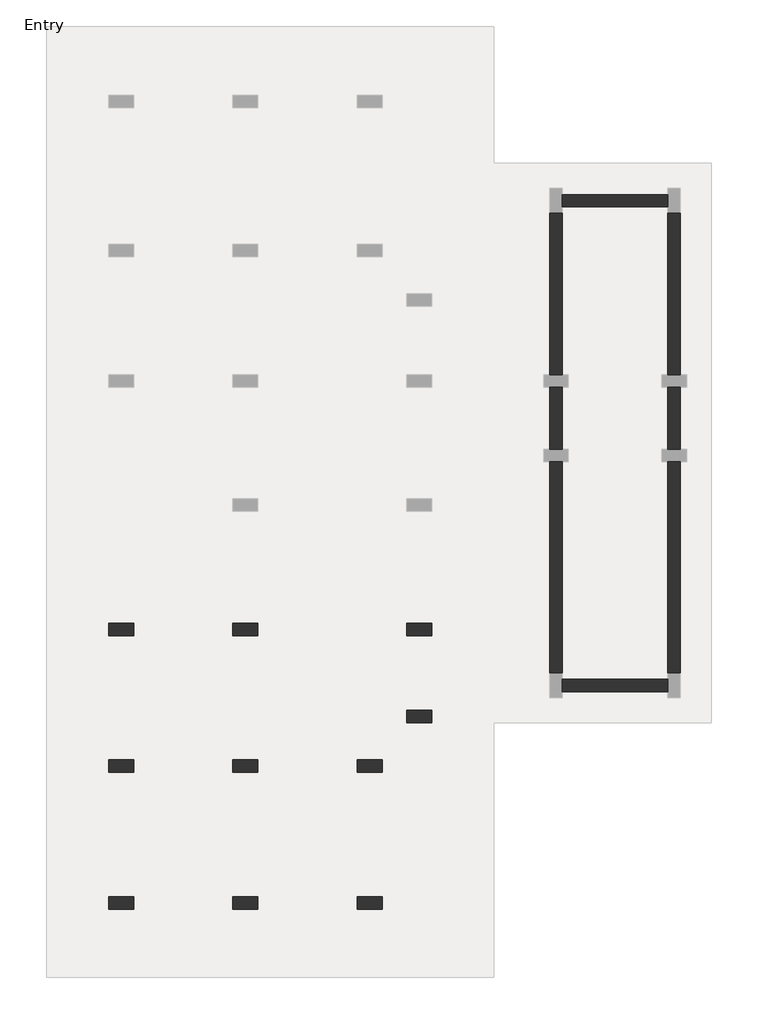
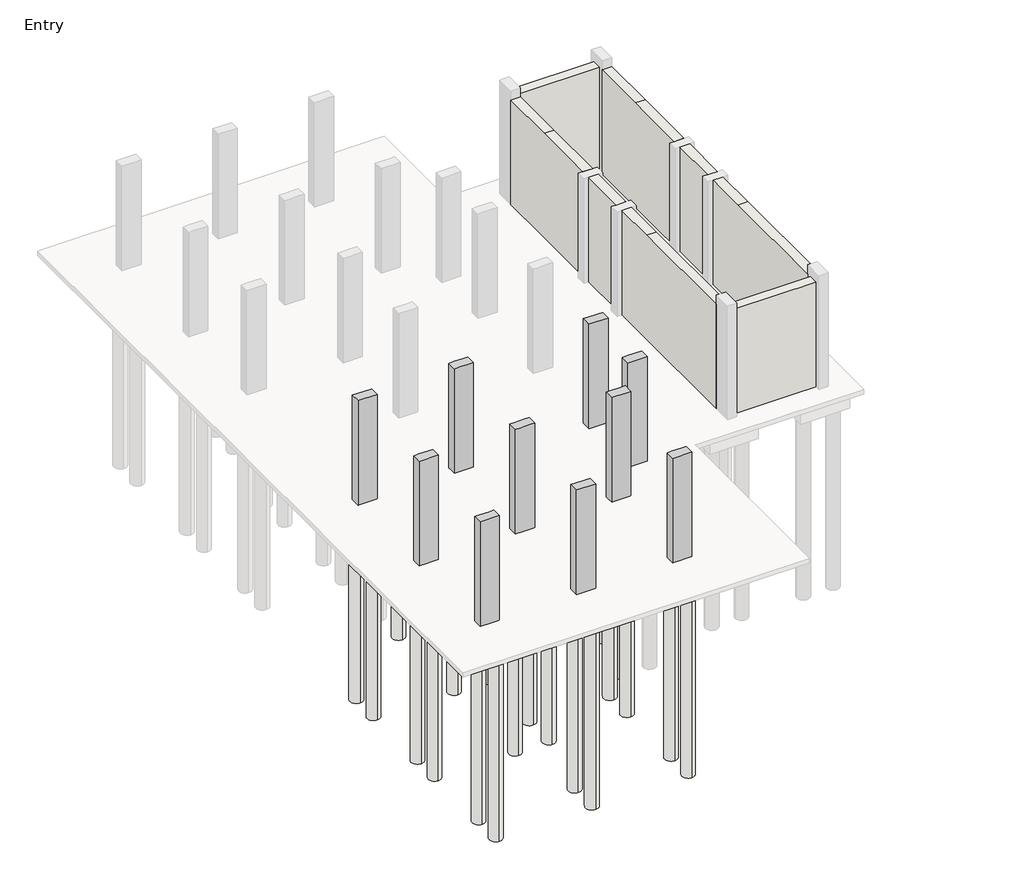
# One storey, part 1 of 3: 35 slabs, 10 columns, 8 walls.
"""IFC4 building model written with IfcOpenShell, lengths in millimetres."""

from ifc_helpers import new_model, si_unit, point, frame, frame_2d, origin, origin_with_axes, place, context, project, spatial, polyline, circle_curve, trimmed, segment, composite_curve, outline, extrude, faceted_brep, element, save

model = new_model("IFC4")

# Units and contexts
model_context = context("Model", 3, world=origin())
ifc_project = project(units=[si_unit("LENGTHUNIT", "METRE", prefix="MILLI")], contexts=[model_context])

# Site, building, storey
site = spatial("IfcSite", under=ifc_project)
building = spatial("IfcBuilding", under=site)
storey = spatial("IfcBuildingStorey", under=building, Name="Entry", Elevation=0.0)

# Columns
placement = place(None, origin())
element("IfcColumn", 1, ObjectType="Concrete-Rectangular-Column : 12 x 24", at=placement, inside=storey, context=model_context, shape_type="Brep", body=[
    faceted_brep([(-15967.1663981, -2679.8512152, 0.0), (-15357.5663981, -2679.8512152, 0.0), (-15357.5663981, -2984.6512152, 0.0), (-15967.1663981, -2984.6512152, 0.0), (-15967.1663981, -2679.8512152, 3505.2), (-15357.5663981, -2679.8512152, 3505.2), (-15357.5663981, -2679.8512152, 2895.6), (-15357.5663981, -2984.6512152, 3505.2), (-15357.5663981, -2984.6512152, 2895.6), (-15509.9663981, -2984.6512152, 3505.2), (-15814.7663981, -2984.6512152, 3505.2), (-15967.1663981, -2984.6512152, 3505.2)], [[[0, 1, 2, 3]], [[4, 5, 6, 1, 0]], [[5, 7, 8, 2, 1, 6]], [[7, 9, 10, 11, 3, 2, 8]], [[11, 4, 0, 3]], [[4, 11, 10, 9, 7, 5]]]),
])
element("IfcColumn", 2, ObjectType="Concrete-Rectangular-Column : 12 x 24", at=placement, inside=storey, context=model_context, shape_type="Brep", body=[
    faceted_brep([(-15967.1663981, -6032.6512152, 0.0), (-15357.5663981, -6032.6512152, 0.0), (-15357.5663981, -6337.4512152, 0.0), (-15967.1663981, -6337.4512152, 0.0), (-15967.1663981, -6032.6512152, 3505.2), (-15814.7663981, -6032.6512152, 3505.2), (-15509.9663981, -6032.6512152, 3505.2), (-15357.5663981, -6032.6512152, 3505.2), (-15357.5663981, -6032.6512152, 2895.6), (-15357.5663981, -6337.4512152, 3505.2), (-15357.5663981, -6337.4512152, 2895.6), (-15509.9663981, -6337.4512152, 3505.2), (-15814.7663981, -6337.4512152, 3505.2), (-15967.1663981, -6337.4512152, 3505.2)], [[[0, 1, 2, 3]], [[4, 5, 6, 7, 8, 1, 0]], [[7, 9, 10, 2, 1, 8]], [[9, 11, 12, 13, 3, 2, 10]], [[13, 4, 0, 3]], [[4, 13, 12, 11, 9, 7, 6, 5]]]),
])
element("IfcColumn", 3, ObjectType="Concrete-Rectangular-Column : 12 x 24", at=placement, inside=storey, context=model_context, shape_type="Brep", body=[
    faceted_brep([(-15967.1663981, -9385.4512152, 0.0), (-15357.5663981, -9385.4512152, 0.0), (-15357.5663981, -9690.2512152, 0.0), (-15967.1663981, -9690.2512152, 0.0), (-15967.1663981, -9385.4512152, 3505.2), (-15814.7663981, -9385.4512152, 3505.2), (-15509.9663981, -9385.4512152, 3505.2), (-15357.5663981, -9385.4512152, 3505.2), (-15357.5663981, -9385.4512152, 2895.6), (-15357.5663981, -9690.2512152, 3505.2), (-15357.5663981, -9690.2512152, 2895.6), (-15967.1663981, -9690.2512152, 3505.2)], [[[0, 1, 2, 3]], [[4, 5, 6, 7, 8, 1, 0]], [[7, 9, 10, 2, 1, 8]], [[9, 11, 3, 2, 10]], [[11, 4, 0, 3]], [[4, 11, 9, 7, 6, 5]]]),
])
element("IfcColumn", 4, ObjectType="Concrete-Rectangular-Column : 12 x 24", at=placement, inside=storey, context=model_context, shape_type="Brep", body=[
    faceted_brep([(-12919.1663981, -9385.4512152, 0.0), (-12309.5663981, -9385.4512152, 0.0), (-12309.5663981, -9690.2512152, 0.0), (-12919.1663981, -9690.2512152, 0.0), (-12919.1663981, -9385.4512152, 3505.2), (-12766.7663981, -9385.4512152, 3505.2), (-12461.9663981, -9385.4512152, 3505.2), (-12309.5663981, -9385.4512152, 3505.2), (-12309.5663981, -9385.4512152, 2895.6), (-12919.1663981, -9385.4512152, 2895.6), (-12309.5663981, -9690.2512152, 3505.2), (-12309.5663981, -9690.2512152, 2895.6), (-12919.1663981, -9690.2512152, 3505.2), (-12919.1663981, -9690.2512152, 2895.6)], [[[0, 1, 2, 3]], [[4, 5, 6, 7, 8, 1, 0, 9]], [[7, 10, 11, 2, 1, 8]], [[10, 12, 13, 3, 2, 11]], [[12, 4, 9, 0, 3, 13]], [[4, 12, 10, 7, 6, 5]]]),
])
element("IfcColumn", 5, ObjectType="Concrete-Rectangular-Column : 12 x 24", at=placement, inside=storey, context=model_context, shape_type="Brep", body=[
    faceted_brep([(-12919.1663981, -6032.6512152, 0.0), (-12309.5663981, -6032.6512152, 0.0), (-12309.5663981, -6337.4512152, 0.0), (-12919.1663981, -6337.4512152, 0.0), (-12919.1663981, -6032.6512152, 3505.2), (-12766.7663981, -6032.6512152, 3505.2), (-12461.9663981, -6032.6512152, 3505.2), (-12309.5663981, -6032.6512152, 3505.2), (-12309.5663981, -6032.6512152, 2895.6), (-12919.1663981, -6032.6512152, 2895.6), (-12309.5663981, -6337.4512152, 3505.2), (-12309.5663981, -6337.4512152, 2895.6), (-12461.9663981, -6337.4512152, 3505.2), (-12766.7663981, -6337.4512152, 3505.2), (-12919.1663981, -6337.4512152, 3505.2), (-12919.1663981, -6337.4512152, 2895.6)], [[[0, 1, 2, 3]], [[4, 5, 6, 7, 8, 1, 0, 9]], [[7, 10, 11, 2, 1, 8]], [[10, 12, 13, 14, 15, 3, 2, 11]], [[14, 4, 9, 0, 3, 15]], [[4, 14, 13, 12, 10, 7, 6, 5]]]),
])
element("IfcColumn", 6, ObjectType="Concrete-Rectangular-Column : 12 x 24", at=placement, inside=storey, context=model_context, shape_type="Brep", body=[
    faceted_brep([(-12919.1663981, -2679.8512152, 0.0), (-12309.5663981, -2679.8512152, 0.0), (-12309.5663981, -2984.6512152, 0.0), (-12919.1663981, -2984.6512152, 0.0), (-12919.1663981, -2679.8512152, 3505.2), (-12766.7663981, -2679.8512152, 3505.2), (-12461.9663981, -2679.8512152, 3505.2), (-12309.5663981, -2679.8512152, 3505.2), (-12309.5663981, -2679.8512152, 2895.6), (-12919.1663981, -2679.8512152, 2895.6), (-12309.5663981, -2984.6512152, 3505.2), (-12309.5663981, -2984.6512152, 2895.6), (-12461.9663981, -2984.6512152, 3505.2), (-12766.7663981, -2984.6512152, 3505.2), (-12919.1663981, -2984.6512152, 3505.2), (-12919.1663981, -2984.6512152, 2895.6)], [[[0, 1, 2, 3]], [[4, 5, 6, 7, 8, 1, 0, 9]], [[7, 10, 11, 2, 1, 8]], [[10, 12, 13, 14, 15, 3, 2, 11]], [[14, 4, 9, 0, 3, 15]], [[4, 14, 13, 12, 10, 7, 6, 5]]]),
])
element("IfcColumn", 7, ObjectType="Concrete-Rectangular-Column : 12 x 24", at=placement, inside=storey, context=model_context, shape_type="Brep", body=[
    faceted_brep([(-8651.9663981, -2679.8512152, 0.0), (-8042.3663981, -2679.8512152, 0.0), (-8042.3663981, -2984.6512152, 0.0), (-8651.9663981, -2984.6512152, 0.0), (-8651.9663981, -2679.8512152, 3505.2), (-8499.5663981, -2679.8512152, 3505.2), (-8194.7663981, -2679.8512152, 3505.2), (-8042.3663981, -2679.8512152, 3505.2), (-8651.9663981, -2679.8512152, 2895.6), (-8042.3663981, -2984.6512152, 3505.2), (-8194.7663981, -2984.6512152, 3505.2), (-8499.5663981, -2984.6512152, 3505.2), (-8651.9663981, -2984.6512152, 3505.2), (-8651.9663981, -2984.6512152, 2895.6)], [[[0, 1, 2, 3]], [[4, 5, 6, 7, 1, 0, 8]], [[7, 9, 2, 1]], [[9, 10, 11, 12, 13, 3, 2]], [[12, 4, 8, 0, 3, 13]], [[4, 12, 11, 10, 9, 7, 6, 5]]]),
])
element("IfcColumn", 8, ObjectType="Concrete-Rectangular-Column : 12 x 24", at=placement, inside=storey, context=model_context, shape_type="Brep", body=[
    faceted_brep([(-8651.9663981, -4813.4512152, 0.0), (-8042.3663981, -4813.4512152, 0.0), (-8042.3663981, -5118.2512152, 0.0), (-8651.9663981, -5118.2512152, 0.0), (-8651.9663981, -4813.4512152, 3505.2), (-8499.5663981, -4813.4512152, 3505.2), (-8194.7663981, -4813.4512152, 3505.2), (-8042.3663981, -4813.4512152, 3505.2), (-8651.9663981, -4813.4512152, 2895.6), (-8042.3663981, -5118.2512152, 3505.2), (-8651.9663981, -5118.2512152, 3505.2), (-8651.9663981, -5118.2512152, 2895.6)], [[[0, 1, 2, 3]], [[4, 5, 6, 7, 1, 0, 8]], [[7, 9, 2, 1]], [[9, 10, 11, 3, 2]], [[10, 4, 8, 0, 3, 11]], [[4, 10, 9, 7, 6, 5]]]),
])
element("IfcColumn", 9, ObjectType="Concrete-Rectangular-Column : 12 x 24", at=placement, inside=storey, context=model_context, shape_type="Brep", body=[
    faceted_brep([(-9261.5663981, -6337.4512152, 0.0), (-9871.1663981, -6337.4512152, 0.0), (-9871.1663981, -6032.6512152, 0.0), (-9261.5663981, -6032.6512152, 0.0), (-9261.5663981, -6337.4512152, 3505.2), (-9413.9663981, -6337.4512152, 3505.2), (-9718.7663981, -6337.4512152, 3505.2), (-9871.1663981, -6337.4512152, 3505.2), (-9871.1663981, -6337.4512152, 2895.6), (-9871.1663981, -6032.6512152, 3505.2), (-9871.1663981, -6032.6512152, 2895.6), (-9718.7663981, -6032.6512152, 3505.2), (-9413.9663981, -6032.6512152, 3505.2), (-9261.5663981, -6032.6512152, 3505.2)], [[[0, 1, 2, 3]], [[4, 5, 6, 7, 8, 1, 0]], [[7, 9, 10, 2, 1, 8]], [[9, 11, 12, 13, 3, 2, 10]], [[13, 4, 0, 3]], [[4, 13, 12, 11, 9, 7, 6, 5]]]),
])
element("IfcColumn", 10, ObjectType="Concrete-Rectangular-Column : 12 x 24", at=placement, inside=storey, context=model_context, shape_type="Brep", body=[
    faceted_brep([(-9261.5663981, -9690.2512152, 0.0), (-9871.1663981, -9690.2512152, 0.0), (-9871.1663981, -9385.4512152, 0.0), (-9261.5663981, -9385.4512152, 0.0), (-9261.5663981, -9690.2512152, 3505.2), (-9871.1663981, -9690.2512152, 3505.2), (-9871.1663981, -9690.2512152, 2895.6), (-9871.1663981, -9385.4512152, 3505.2), (-9871.1663981, -9385.4512152, 2895.6), (-9718.7663981, -9385.4512152, 3505.2), (-9413.9663981, -9385.4512152, 3505.2), (-9261.5663981, -9385.4512152, 3505.2)], [[[0, 1, 2, 3]], [[4, 5, 6, 1, 0]], [[5, 7, 8, 2, 1, 6]], [[7, 9, 10, 11, 3, 2, 8]], [[11, 4, 0, 3]], [[4, 11, 10, 9, 7, 5]]]),
])

# Slabs
element("IfcSlab", 11, ObjectType="Pile Cap-2 Pile : 31\"x61\"x35\"", at=placement, inside=storey, context=model_context, shape_type="SweptSolid", body=[
    extrude(outline(polyline([(-16068.7663981, -2057.5512152), (-15255.9663981, -2057.5512152), (-15255.9663981, -3606.9512152), (-16068.7663981, -3606.9512152), (-16068.7663981, -2057.5512152)])), frame((0.0, 0.0, -889.0), z_axis=(0.0, 0.0, 1.0), x_axis=(1.0, 0.0, 0.0)), (0.0, 0.0, 1.0), 736.6),
])
element("IfcSlab", 12, ObjectType="Pile Cap-2 Pile : 31\"x61\"x35\"", at=placement, inside=storey, context=model_context, shape_type="SweptSolid", body=[
    extrude(outline(polyline([(-16068.7663981, -5410.3512152), (-15255.9663981, -5410.3512152), (-15255.9663981, -6959.7512152), (-16068.7663981, -6959.7512152), (-16068.7663981, -5410.3512152)])), frame((0.0, 0.0, -889.0), z_axis=(0.0, 0.0, 1.0), x_axis=(1.0, 0.0, 0.0)), (0.0, 0.0, 1.0), 736.6),
])
element("IfcSlab", 13, ObjectType="Pile Cap-2 Pile : 31\"x61\"x35\"", at=placement, inside=storey, context=model_context, shape_type="SweptSolid", body=[
    extrude(outline(polyline([(-16068.7663981, -8763.1512152), (-15255.9663981, -8763.1512152), (-15255.9663981, -10312.5512152), (-16068.7663981, -10312.5512152), (-16068.7663981, -8763.1512152)])), frame((0.0, 0.0, -889.0), z_axis=(0.0, 0.0, 1.0), x_axis=(1.0, 0.0, 0.0)), (0.0, 0.0, 1.0), 736.6),
])
element("IfcSlab", 14, ObjectType="Pile Cap-2 Pile : 31\"x61\"x35\"", at=placement, inside=storey, context=model_context, shape_type="SweptSolid", body=[
    extrude(outline(polyline([(-13020.7663981, -8763.1512152), (-12207.9663981, -8763.1512152), (-12207.9663981, -10312.5512152), (-13020.7663981, -10312.5512152), (-13020.7663981, -8763.1512152)])), frame((0.0, 0.0, -889.0), z_axis=(0.0, 0.0, 1.0), x_axis=(1.0, 0.0, 0.0)), (0.0, 0.0, 1.0), 736.6),
])
element("IfcSlab", 15, ObjectType="Pile Cap-2 Pile : 31\"x61\"x35\"", at=placement, inside=storey, context=model_context, shape_type="SweptSolid", body=[
    extrude(outline(polyline([(-9159.9663981, -6959.7512152), (-9972.7663981, -6959.7512152), (-9972.7663981, -5410.3512152), (-9159.9663981, -5410.3512152), (-9159.9663981, -6959.7512152)])), frame((0.0, 0.0, -889.0), z_axis=(0.0, 0.0, 1.0), x_axis=(1.0, 0.0, 0.0)), (0.0, 0.0, 1.0), 736.6),
])
element("IfcSlab", 16, ObjectType="Pile Cap-2 Pile : 31\"x61\"x35\"", at=placement, inside=storey, context=model_context, shape_type="SweptSolid", body=[
    extrude(outline(polyline([(-9159.9663981, -10312.5512152), (-9972.7663981, -10312.5512152), (-9972.7663981, -8763.1512152), (-9159.9663981, -8763.1512152), (-9159.9663981, -10312.5512152)])), frame((0.0, 0.0, -889.0), z_axis=(0.0, 0.0, 1.0), x_axis=(1.0, 0.0, 0.0)), (0.0, 0.0, 1.0), 736.6),
])
element("IfcSlab", 17, ObjectType="Pile Cap-2 Pile : 31\"x61\"x35\"", at=placement, inside=storey, context=model_context, shape_type="SweptSolid", body=[
    extrude(outline(polyline([(-8753.5663981, -2057.5512152), (-7940.7663981, -2057.5512152), (-7940.7663981, -3606.9512152), (-8753.5663981, -3606.9512152), (-8753.5663981, -2057.5512152)])), frame((0.0, 0.0, -889.0), z_axis=(0.0, 0.0, 1.0), x_axis=(1.0, 0.0, 0.0)), (0.0, 0.0, 1.0), 736.6),
])
element("IfcSlab", 18, ObjectType="Pile Cap-2 Pile : 31\"x61\"x35\"", at=placement, inside=storey, context=model_context, shape_type="SweptSolid", body=[
    extrude(outline(polyline([(-7572.4663981, -4559.4512152), (-7572.4663981, -5372.2512152), (-9121.8663981, -5372.2512152), (-9121.8663981, -4559.4512152), (-7572.4663981, -4559.4512152)])), frame((0.0, 0.0, -889.0), z_axis=(0.0, 0.0, 1.0), x_axis=(1.0, 0.0, 0.0)), (0.0, 0.0, 1.0), 736.6),
])
element("IfcSlab", 19, ObjectType="Pile Cap-4 Pile : 72\"x72\"x35\"", at=placement, inside=storey, context=model_context, shape_type="SweptSolid", body=[
    extrude(outline(polyline([(-13528.7663981, -1917.8512152), (-11699.9663981, -1917.8512152), (-11699.9663981, -3746.6512152), (-13528.7663981, -3746.6512152), (-13528.7663981, -1917.8512152)])), frame((0.0, 0.0, -889.0), z_axis=(0.0, 0.0, 1.0), x_axis=(1.0, 0.0, 0.0)), (0.0, 0.0, 1.0), 736.6),
])
element("IfcSlab", 20, ObjectType="Pile Cap-4 Pile : 72\"x72\"x35\"", at=placement, inside=storey, context=model_context, shape_type="SweptSolid", body=[
    extrude(outline(polyline([(-13528.7663981, -5270.6512152), (-11699.9663981, -5270.6512152), (-11699.9663981, -7099.4512152), (-13528.7663981, -7099.4512152), (-13528.7663981, -5270.6512152)])), frame((0.0, 0.0, -889.0), z_axis=(0.0, 0.0, 1.0), x_axis=(1.0, 0.0, 0.0)), (0.0, 0.0, 1.0), 736.6),
])
element("IfcSlab", 21, ObjectType="Pile-Steel Pipe : 16\" Diameter", at=placement, inside=storey, context=model_context, shape_type="SweptSolid", body=[
    extrude(outline(composite_curve([segment(trimmed(circle_curve(frame_2d((-13147.7663981, -317.6512152)), 203.2), [point((-13147.7663981, -520.8512152))], [point((-13147.7663981, -114.4512152))], False, "CARTESIAN"), True, "CONTINUOUS"), segment(trimmed(circle_curve(frame_2d((-13147.7663981, -317.6512152)), 203.2), [point((-13147.7663981, -114.4512152))], [point((-13147.7663981, -520.8512152))], False, "CARTESIAN"), True, "CONTINUOUS")], self_intersect=False)), frame((0.0, 0.0, -6985.0), z_axis=(0.0, 0.0, 1.0), x_axis=(1.0, 0.0, 0.0)), (0.0, 0.0, 1.0), 6096.0),
])
element("IfcSlab", 22, ObjectType="Pile-Steel Pipe : 16\" Diameter", at=placement, inside=storey, context=model_context, shape_type="SweptSolid", body=[
    extrude(outline(composite_curve([segment(trimmed(circle_curve(frame_2d((-12080.9663981, -317.6512152)), 203.2), [point((-12080.9663981, -520.8512152))], [point((-12080.9663981, -114.4512152))], False, "CARTESIAN"), True, "CONTINUOUS"), segment(trimmed(circle_curve(frame_2d((-12080.9663981, -317.6512152)), 203.2), [point((-12080.9663981, -114.4512152))], [point((-12080.9663981, -520.8512152))], False, "CARTESIAN"), True, "CONTINUOUS")], self_intersect=False)), frame((0.0, 0.0, -6985.0), z_axis=(0.0, 0.0, 1.0), x_axis=(1.0, 0.0, 0.0)), (0.0, 0.0, 1.0), 6096.0),
])
element("IfcSlab", 23, ObjectType="Pile-Steel Pipe : 16\" Diameter", at=placement, inside=storey, context=model_context, shape_type="SweptSolid", body=[
    extrude(outline(composite_curve([segment(trimmed(circle_curve(frame_2d((-13147.7663981, -3365.6512152)), 203.2), [point((-13147.7663981, -3568.8512152))], [point((-13147.7663981, -3162.4512152))], False, "CARTESIAN"), True, "CONTINUOUS"), segment(trimmed(circle_curve(frame_2d((-13147.7663981, -3365.6512152)), 203.2), [point((-13147.7663981, -3162.4512152))], [point((-13147.7663981, -3568.8512152))], False, "CARTESIAN"), True, "CONTINUOUS")], self_intersect=False)), frame((0.0, 0.0, -6985.0), z_axis=(0.0, 0.0, 1.0), x_axis=(1.0, 0.0, 0.0)), (0.0, 0.0, 1.0), 6096.0),
])
element("IfcSlab", 24, ObjectType="Pile-Steel Pipe : 16\" Diameter", at=placement, inside=storey, context=model_context, shape_type="SweptSolid", body=[
    extrude(outline(composite_curve([segment(trimmed(circle_curve(frame_2d((-12080.9663981, -3365.6512152)), 203.2), [point((-12080.9663981, -3568.8512152))], [point((-12080.9663981, -3162.4512152))], False, "CARTESIAN"), True, "CONTINUOUS"), segment(trimmed(circle_curve(frame_2d((-12080.9663981, -3365.6512152)), 203.2), [point((-12080.9663981, -3162.4512152))], [point((-12080.9663981, -3568.8512152))], False, "CARTESIAN"), True, "CONTINUOUS")], self_intersect=False)), frame((0.0, 0.0, -6985.0), z_axis=(0.0, 0.0, 1.0), x_axis=(1.0, 0.0, 0.0)), (0.0, 0.0, 1.0), 6096.0),
])
element("IfcSlab", 25, ObjectType="Pile-Steel Pipe : 16\" Diameter", at=placement, inside=storey, context=model_context, shape_type="SweptSolid", body=[
    extrude(outline(composite_curve([segment(trimmed(circle_curve(frame_2d((-12080.9663981, -2298.8512152)), 203.2), [point((-12080.9663981, -2502.0512152))], [point((-12080.9663981, -2095.6512152))], False, "CARTESIAN"), True, "CONTINUOUS"), segment(trimmed(circle_curve(frame_2d((-12080.9663981, -2298.8512152)), 203.2), [point((-12080.9663981, -2095.6512152))], [point((-12080.9663981, -2502.0512152))], False, "CARTESIAN"), True, "CONTINUOUS")], self_intersect=False)), frame((0.0, 0.0, -6985.0), z_axis=(0.0, 0.0, 1.0), x_axis=(1.0, 0.0, 0.0)), (0.0, 0.0, 1.0), 6096.0),
])
element("IfcSlab", 26, ObjectType="Pile-Steel Pipe : 16\" Diameter", at=placement, inside=storey, context=model_context, shape_type="SweptSolid", body=[
    extrude(outline(composite_curve([segment(trimmed(circle_curve(frame_2d((-13147.7663981, -2298.8512152)), 203.2), [point((-13147.7663981, -2502.0512152))], [point((-13147.7663981, -2095.6512152))], False, "CARTESIAN"), True, "CONTINUOUS"), segment(trimmed(circle_curve(frame_2d((-13147.7663981, -2298.8512152)), 203.2), [point((-13147.7663981, -2095.6512152))], [point((-13147.7663981, -2502.0512152))], False, "CARTESIAN"), True, "CONTINUOUS")], self_intersect=False)), frame((0.0, 0.0, -6985.0), z_axis=(0.0, 0.0, 1.0), x_axis=(1.0, 0.0, 0.0)), (0.0, 0.0, 1.0), 6096.0),
])
element("IfcSlab", 27, ObjectType="Pile-Steel Pipe : 16\" Diameter", at=placement, inside=storey, context=model_context, shape_type="SweptSolid", body=[
    extrude(outline(composite_curve([segment(trimmed(circle_curve(frame_2d((-13147.7663981, -6718.4512152)), 203.2), [point((-13147.7663981, -6921.6512152))], [point((-13147.7663981, -6515.2512152))], False, "CARTESIAN"), True, "CONTINUOUS"), segment(trimmed(circle_curve(frame_2d((-13147.7663981, -6718.4512152)), 203.2), [point((-13147.7663981, -6515.2512152))], [point((-13147.7663981, -6921.6512152))], False, "CARTESIAN"), True, "CONTINUOUS")], self_intersect=False)), frame((0.0, 0.0, -6985.0), z_axis=(0.0, 0.0, 1.0), x_axis=(1.0, 0.0, 0.0)), (0.0, 0.0, 1.0), 6096.0),
])
element("IfcSlab", 28, ObjectType="Pile-Steel Pipe : 16\" Diameter", at=placement, inside=storey, context=model_context, shape_type="SweptSolid", body=[
    extrude(outline(composite_curve([segment(trimmed(circle_curve(frame_2d((-12080.9663981, -6718.4512152)), 203.2), [point((-12080.9663981, -6921.6512152))], [point((-12080.9663981, -6515.2512152))], False, "CARTESIAN"), True, "CONTINUOUS"), segment(trimmed(circle_curve(frame_2d((-12080.9663981, -6718.4512152)), 203.2), [point((-12080.9663981, -6515.2512152))], [point((-12080.9663981, -6921.6512152))], False, "CARTESIAN"), True, "CONTINUOUS")], self_intersect=False)), frame((0.0, 0.0, -6985.0), z_axis=(0.0, 0.0, 1.0), x_axis=(1.0, 0.0, 0.0)), (0.0, 0.0, 1.0), 6096.0),
])
element("IfcSlab", 29, ObjectType="Pile-Steel Pipe : 16\" Diameter", at=placement, inside=storey, context=model_context, shape_type="SweptSolid", body=[
    extrude(outline(composite_curve([segment(trimmed(circle_curve(frame_2d((-12080.9663981, -5651.6512152)), 203.2), [point((-12080.9663981, -5854.8512152))], [point((-12080.9663981, -5448.4512152))], False, "CARTESIAN"), True, "CONTINUOUS"), segment(trimmed(circle_curve(frame_2d((-12080.9663981, -5651.6512152)), 203.2), [point((-12080.9663981, -5448.4512152))], [point((-12080.9663981, -5854.8512152))], False, "CARTESIAN"), True, "CONTINUOUS")], self_intersect=False)), frame((0.0, 0.0, -6985.0), z_axis=(0.0, 0.0, 1.0), x_axis=(1.0, 0.0, 0.0)), (0.0, 0.0, 1.0), 6096.0),
])
element("IfcSlab", 30, ObjectType="Pile-Steel Pipe : 16\" Diameter", at=placement, inside=storey, context=model_context, shape_type="SweptSolid", body=[
    extrude(outline(composite_curve([segment(trimmed(circle_curve(frame_2d((-13147.7663981, -5651.6512152)), 203.2), [point((-13147.7663981, -5854.8512152))], [point((-13147.7663981, -5448.4512152))], False, "CARTESIAN"), True, "CONTINUOUS"), segment(trimmed(circle_curve(frame_2d((-13147.7663981, -5651.6512152)), 203.2), [point((-13147.7663981, -5448.4512152))], [point((-13147.7663981, -5854.8512152))], False, "CARTESIAN"), True, "CONTINUOUS")], self_intersect=False)), frame((0.0, 0.0, -6985.0), z_axis=(0.0, 0.0, 1.0), x_axis=(1.0, 0.0, 0.0)), (0.0, 0.0, 1.0), 6096.0),
])
element("IfcSlab", 31, ObjectType="Pile-Steel Pipe : 16\" Diameter", at=placement, inside=storey, context=model_context, shape_type="SweptSolid", body=[
    extrude(outline(composite_curve([segment(trimmed(circle_curve(frame_2d((-15662.3663981, -3302.1512152)), 203.2), [point((-15662.3663981, -3505.3512152))], [point((-15662.3663981, -3098.9512152))], False, "CARTESIAN"), True, "CONTINUOUS"), segment(trimmed(circle_curve(frame_2d((-15662.3663981, -3302.1512152)), 203.2), [point((-15662.3663981, -3098.9512152))], [point((-15662.3663981, -3505.3512152))], False, "CARTESIAN"), True, "CONTINUOUS")], self_intersect=False)), frame((0.0, 0.0, -6985.0), z_axis=(0.0, 0.0, 1.0), x_axis=(1.0, 0.0, 0.0)), (0.0, 0.0, 1.0), 6096.0),
])
element("IfcSlab", 32, ObjectType="Pile-Steel Pipe : 16\" Diameter", at=placement, inside=storey, context=model_context, shape_type="SweptSolid", body=[
    extrude(outline(composite_curve([segment(trimmed(circle_curve(frame_2d((-15662.3663981, -2362.3512152)), 203.2), [point((-15662.3663981, -2565.5512152))], [point((-15662.3663981, -2159.1512152))], False, "CARTESIAN"), True, "CONTINUOUS"), segment(trimmed(circle_curve(frame_2d((-15662.3663981, -2362.3512152)), 203.2), [point((-15662.3663981, -2159.1512152))], [point((-15662.3663981, -2565.5512152))], False, "CARTESIAN"), True, "CONTINUOUS")], self_intersect=False)), frame((0.0, 0.0, -6985.0), z_axis=(0.0, 0.0, 1.0), x_axis=(1.0, 0.0, 0.0)), (0.0, 0.0, 1.0), 6096.0),
])
element("IfcSlab", 33, ObjectType="Pile-Steel Pipe : 16\" Diameter", at=placement, inside=storey, context=model_context, shape_type="SweptSolid", body=[
    extrude(outline(composite_curve([segment(trimmed(circle_curve(frame_2d((-15662.3663981, -6654.9512152)), 203.2), [point((-15662.3663981, -6858.1512152))], [point((-15662.3663981, -6451.7512152))], False, "CARTESIAN"), True, "CONTINUOUS"), segment(trimmed(circle_curve(frame_2d((-15662.3663981, -6654.9512152)), 203.2), [point((-15662.3663981, -6451.7512152))], [point((-15662.3663981, -6858.1512152))], False, "CARTESIAN"), True, "CONTINUOUS")], self_intersect=False)), frame((0.0, 0.0, -6985.0), z_axis=(0.0, 0.0, 1.0), x_axis=(1.0, 0.0, 0.0)), (0.0, 0.0, 1.0), 6096.0),
])
element("IfcSlab", 34, ObjectType="Pile-Steel Pipe : 16\" Diameter", at=placement, inside=storey, context=model_context, shape_type="SweptSolid", body=[
    extrude(outline(composite_curve([segment(trimmed(circle_curve(frame_2d((-15662.3663981, -5715.1512152)), 203.2), [point((-15662.3663981, -5918.3512152))], [point((-15662.3663981, -5511.9512152))], False, "CARTESIAN"), True, "CONTINUOUS"), segment(trimmed(circle_curve(frame_2d((-15662.3663981, -5715.1512152)), 203.2), [point((-15662.3663981, -5511.9512152))], [point((-15662.3663981, -5918.3512152))], False, "CARTESIAN"), True, "CONTINUOUS")], self_intersect=False)), frame((0.0, 0.0, -6985.0), z_axis=(0.0, 0.0, 1.0), x_axis=(1.0, 0.0, 0.0)), (0.0, 0.0, 1.0), 6096.0),
])
element("IfcSlab", 35, ObjectType="Pile-Steel Pipe : 16\" Diameter", at=placement, inside=storey, context=model_context, shape_type="SweptSolid", body=[
    extrude(outline(composite_curve([segment(trimmed(circle_curve(frame_2d((-15662.3663981, -10007.7512152)), 203.2), [point((-15662.3663981, -10210.9512152))], [point((-15662.3663981, -9804.5512152))], False, "CARTESIAN"), True, "CONTINUOUS"), segment(trimmed(circle_curve(frame_2d((-15662.3663981, -10007.7512152)), 203.2), [point((-15662.3663981, -9804.5512152))], [point((-15662.3663981, -10210.9512152))], False, "CARTESIAN"), True, "CONTINUOUS")], self_intersect=False)), frame((0.0, 0.0, -6985.0), z_axis=(0.0, 0.0, 1.0), x_axis=(1.0, 0.0, 0.0)), (0.0, 0.0, 1.0), 6096.0),
])
element("IfcSlab", 36, ObjectType="Pile-Steel Pipe : 16\" Diameter", at=placement, inside=storey, context=model_context, shape_type="SweptSolid", body=[
    extrude(outline(composite_curve([segment(trimmed(circle_curve(frame_2d((-15662.3663981, -9067.9512152)), 203.2), [point((-15662.3663981, -9271.1512152))], [point((-15662.3663981, -8864.7512152))], False, "CARTESIAN"), True, "CONTINUOUS"), segment(trimmed(circle_curve(frame_2d((-15662.3663981, -9067.9512152)), 203.2), [point((-15662.3663981, -8864.7512152))], [point((-15662.3663981, -9271.1512152))], False, "CARTESIAN"), True, "CONTINUOUS")], self_intersect=False)), frame((0.0, 0.0, -6985.0), z_axis=(0.0, 0.0, 1.0), x_axis=(1.0, 0.0, 0.0)), (0.0, 0.0, 1.0), 6096.0),
])
element("IfcSlab", 37, ObjectType="Pile-Steel Pipe : 16\" Diameter", at=placement, inside=storey, context=model_context, shape_type="SweptSolid", body=[
    extrude(outline(composite_curve([segment(trimmed(circle_curve(frame_2d((-12614.3663981, -10007.7512152)), 203.2), [point((-12614.3663981, -10210.9512152))], [point((-12614.3663981, -9804.5512152))], False, "CARTESIAN"), True, "CONTINUOUS"), segment(trimmed(circle_curve(frame_2d((-12614.3663981, -10007.7512152)), 203.2), [point((-12614.3663981, -9804.5512152))], [point((-12614.3663981, -10210.9512152))], False, "CARTESIAN"), True, "CONTINUOUS")], self_intersect=False)), frame((0.0, 0.0, -6985.0), z_axis=(0.0, 0.0, 1.0), x_axis=(1.0, 0.0, 0.0)), (0.0, 0.0, 1.0), 6096.0),
])
element("IfcSlab", 38, ObjectType="Pile-Steel Pipe : 16\" Diameter", at=placement, inside=storey, context=model_context, shape_type="SweptSolid", body=[
    extrude(outline(composite_curve([segment(trimmed(circle_curve(frame_2d((-12614.3663981, -9067.9512152)), 203.2), [point((-12614.3663981, -9271.1512152))], [point((-12614.3663981, -8864.7512152))], False, "CARTESIAN"), True, "CONTINUOUS"), segment(trimmed(circle_curve(frame_2d((-12614.3663981, -9067.9512152)), 203.2), [point((-12614.3663981, -8864.7512152))], [point((-12614.3663981, -9271.1512152))], False, "CARTESIAN"), True, "CONTINUOUS")], self_intersect=False)), frame((0.0, 0.0, -6985.0), z_axis=(0.0, 0.0, 1.0), x_axis=(1.0, 0.0, 0.0)), (0.0, 0.0, 1.0), 6096.0),
])
element("IfcSlab", 39, ObjectType="Pile-Steel Pipe : 16\" Diameter", at=placement, inside=storey, context=model_context, shape_type="SweptSolid", body=[
    extrude(outline(composite_curve([segment(trimmed(circle_curve(frame_2d((-9566.3663981, -5715.1512152)), 203.2), [point((-9566.3663981, -5511.9512152))], [point((-9566.3663981, -5918.3512152))], False, "CARTESIAN"), True, "CONTINUOUS"), segment(trimmed(circle_curve(frame_2d((-9566.3663981, -5715.1512152)), 203.2), [point((-9566.3663981, -5918.3512152))], [point((-9566.3663981, -5511.9512152))], False, "CARTESIAN"), True, "CONTINUOUS")], self_intersect=False)), frame((0.0, 0.0, -6985.0), z_axis=(0.0, 0.0, 1.0), x_axis=(1.0, 0.0, 0.0)), (0.0, 0.0, 1.0), 6096.0),
])
element("IfcSlab", 40, ObjectType="Pile-Steel Pipe : 16\" Diameter", at=placement, inside=storey, context=model_context, shape_type="SweptSolid", body=[
    extrude(outline(composite_curve([segment(trimmed(circle_curve(frame_2d((-9566.3663981, -6654.9512152)), 203.2), [point((-9566.3663981, -6451.7512152))], [point((-9566.3663981, -6858.1512152))], False, "CARTESIAN"), True, "CONTINUOUS"), segment(trimmed(circle_curve(frame_2d((-9566.3663981, -6654.9512152)), 203.2), [point((-9566.3663981, -6858.1512152))], [point((-9566.3663981, -6451.7512152))], False, "CARTESIAN"), True, "CONTINUOUS")], self_intersect=False)), frame((0.0, 0.0, -6985.0), z_axis=(0.0, 0.0, 1.0), x_axis=(1.0, 0.0, 0.0)), (0.0, 0.0, 1.0), 6096.0),
])
element("IfcSlab", 41, ObjectType="Pile-Steel Pipe : 16\" Diameter", at=placement, inside=storey, context=model_context, shape_type="SweptSolid", body=[
    extrude(outline(composite_curve([segment(trimmed(circle_curve(frame_2d((-9566.3663981, -9067.9512152)), 203.2), [point((-9566.3663981, -8864.7512152))], [point((-9566.3663981, -9271.1512152))], False, "CARTESIAN"), True, "CONTINUOUS"), segment(trimmed(circle_curve(frame_2d((-9566.3663981, -9067.9512152)), 203.2), [point((-9566.3663981, -9271.1512152))], [point((-9566.3663981, -8864.7512152))], False, "CARTESIAN"), True, "CONTINUOUS")], self_intersect=False)), frame((0.0, 0.0, -6985.0), z_axis=(0.0, 0.0, 1.0), x_axis=(1.0, 0.0, 0.0)), (0.0, 0.0, 1.0), 6096.0),
])
element("IfcSlab", 42, ObjectType="Pile-Steel Pipe : 16\" Diameter", at=placement, inside=storey, context=model_context, shape_type="SweptSolid", body=[
    extrude(outline(composite_curve([segment(trimmed(circle_curve(frame_2d((-9566.3663981, -10007.7512152)), 203.2), [point((-9566.3663981, -9804.5512152))], [point((-9566.3663981, -10210.9512152))], False, "CARTESIAN"), True, "CONTINUOUS"), segment(trimmed(circle_curve(frame_2d((-9566.3663981, -10007.7512152)), 203.2), [point((-9566.3663981, -10210.9512152))], [point((-9566.3663981, -9804.5512152))], False, "CARTESIAN"), True, "CONTINUOUS")], self_intersect=False)), frame((0.0, 0.0, -6985.0), z_axis=(0.0, 0.0, 1.0), x_axis=(1.0, 0.0, 0.0)), (0.0, 0.0, 1.0), 6096.0),
])
element("IfcSlab", 43, ObjectType="Pile-Steel Pipe : 16\" Diameter", at=placement, inside=storey, context=model_context, shape_type="SweptSolid", body=[
    extrude(outline(composite_curve([segment(trimmed(circle_curve(frame_2d((-8347.1663981, -3302.1512152)), 203.2), [point((-8347.1663981, -3505.3512152))], [point((-8347.1663981, -3098.9512152))], False, "CARTESIAN"), True, "CONTINUOUS"), segment(trimmed(circle_curve(frame_2d((-8347.1663981, -3302.1512152)), 203.2), [point((-8347.1663981, -3098.9512152))], [point((-8347.1663981, -3505.3512152))], False, "CARTESIAN"), True, "CONTINUOUS")], self_intersect=False)), frame((0.0, 0.0, -6985.0), z_axis=(0.0, 0.0, 1.0), x_axis=(1.0, 0.0, 0.0)), (0.0, 0.0, 1.0), 6096.0),
])
element("IfcSlab", 44, ObjectType="Pile-Steel Pipe : 16\" Diameter", at=placement, inside=storey, context=model_context, shape_type="SweptSolid", body=[
    extrude(outline(composite_curve([segment(trimmed(circle_curve(frame_2d((-8347.1663981, -2362.3512152)), 203.2), [point((-8347.1663981, -2565.5512152))], [point((-8347.1663981, -2159.1512152))], False, "CARTESIAN"), True, "CONTINUOUS"), segment(trimmed(circle_curve(frame_2d((-8347.1663981, -2362.3512152)), 203.2), [point((-8347.1663981, -2159.1512152))], [point((-8347.1663981, -2565.5512152))], False, "CARTESIAN"), True, "CONTINUOUS")], self_intersect=False)), frame((0.0, 0.0, -6985.0), z_axis=(0.0, 0.0, 1.0), x_axis=(1.0, 0.0, 0.0)), (0.0, 0.0, 1.0), 6096.0),
])
element("IfcSlab", 45, ObjectType="Pile-Steel Pipe : 16\" Diameter", at=placement, inside=storey, context=model_context, shape_type="SweptSolid", body=[
    extrude(outline(composite_curve([segment(trimmed(circle_curve(frame_2d((-8817.0663981, -4965.8512152)), 203.2), [point((-9020.2663981, -4965.8512152))], [point((-8613.8663981, -4965.8512152))], False, "CARTESIAN"), True, "CONTINUOUS"), segment(trimmed(circle_curve(frame_2d((-8817.0663981, -4965.8512152)), 203.2), [point((-8613.8663981, -4965.8512152))], [point((-9020.2663981, -4965.8512152))], False, "CARTESIAN"), True, "CONTINUOUS")], self_intersect=False)), frame((0.0, 0.0, -6985.0), z_axis=(0.0, 0.0, 1.0), x_axis=(1.0, 0.0, 0.0)), (0.0, 0.0, 1.0), 6096.0),
])

# Walls
element("IfcWall", 46, ObjectType="Core-Shaft - 12\" Concrete", at=placement, inside=storey, context=model_context, shape_type="SweptSolid", body=[
    extrude(outline(polyline([(-2251.1663981, 7530.9487848), (-4841.9663981, 7530.9487848), (-4841.9663981, 7835.7487848), (-2251.1663981, 7835.7487848), (-2251.1663981, 7530.9487848)])), origin_with_axes(), (0.0, 0.0, 1.0), 3505.2),
])
element("IfcWall", 47, ObjectType="Core-Shaft - 12\" Concrete", at=placement, inside=storey, context=model_context, shape_type="SweptSolid", body=[
    extrude(outline(polyline([(7378.5487848, 0.0), (3416.1487848, 0.0), (3416.1487848, 3505.2), (5549.7487848, 3505.2), (7378.5487848, 3505.2), (7378.5487848, 0.0)])), frame((-2251.1663981, 0.0, 0.0), z_axis=(1.0, 0.0, 0.0), x_axis=(0.0, 1.0, 0.0)), (0.0, 0.0, 1.0), 304.8),
])
element("IfcWall", 48, ObjectType="Core-Shaft - 12\" Concrete", at=placement, inside=storey, context=model_context, shape_type="SweptSolid", body=[
    extrude(outline(polyline([(-2251.1663981, 1587.3487848), (-2251.1663981, 3111.3487848), (-1946.3663981, 3111.3487848), (-1946.3663981, 1587.3487848), (-2251.1663981, 1587.3487848)])), origin_with_axes(), (0.0, 0.0, 1.0), 3505.2),
])
element("IfcWall", 49, ObjectType="Core-Shaft - 12\" Concrete", at=placement, inside=storey, context=model_context, shape_type="SweptSolid", body=[
    extrude(outline(polyline([(1282.5487848, 0.0), (-3899.0512152, 0.0), (-3899.0512152, 3505.2), (-89.0512152, 3505.2), (1282.5487848, 3505.2), (1282.5487848, 0.0)])), frame((-2251.1663981, 0.0, 0.0), z_axis=(1.0, 0.0, 0.0), x_axis=(0.0, 1.0, 0.0)), (0.0, 0.0, 1.0), 304.8),
])
element("IfcWall", 50, ObjectType="Core-Shaft - 12\" Concrete", at=placement, inside=storey, context=model_context, shape_type="SweptSolid", body=[
    extrude(outline(polyline([(7378.5487848, 0.0), (3416.1487848, 0.0), (3416.1487848, 3505.2), (5549.7487848, 3505.2), (7378.5487848, 3505.2), (7378.5487848, 0.0)])), frame((-5146.7663981, 0.0, 0.0), z_axis=(1.0, 0.0, 0.0), x_axis=(0.0, 1.0, 0.0)), (0.0, 0.0, 1.0), 304.8),
])
element("IfcWall", 51, ObjectType="Core-Shaft - 12\" Concrete", at=placement, inside=storey, context=model_context, shape_type="SweptSolid", body=[
    extrude(outline(polyline([(-5146.7663981, 1587.3487848), (-5146.7663981, 3111.3487848), (-4841.9663981, 3111.3487848), (-4841.9663981, 1587.3487848), (-5146.7663981, 1587.3487848)])), origin_with_axes(), (0.0, 0.0, 1.0), 3505.2),
])
element("IfcWall", 52, ObjectType="Core-Shaft - 12\" Concrete", at=placement, inside=storey, context=model_context, shape_type="SweptSolid", body=[
    extrude(outline(polyline([(1282.5487848, 0.0), (-3899.0512152, 0.0), (-3899.0512152, 3505.2), (-89.0512152, 3505.2), (1282.5487848, 3505.2), (1282.5487848, 0.0)])), frame((-5146.7663981, 0.0, 0.0), z_axis=(1.0, 0.0, 0.0), x_axis=(0.0, 1.0, 0.0)), (0.0, 0.0, 1.0), 304.8),
])
element("IfcWall", 53, ObjectType="Core-Shaft - 12\" Concrete", at=placement, inside=storey, context=model_context, shape_type="SweptSolid", body=[
    extrude(outline(polyline([(-2251.1663981, -4356.2512152), (-4841.9663981, -4356.2512152), (-4841.9663981, -4051.4512152), (-2251.1663981, -4051.4512152), (-2251.1663981, -4356.2512152)])), origin_with_axes(), (0.0, 0.0, 1.0), 3505.2),
])

save(model, "model.ifc")
